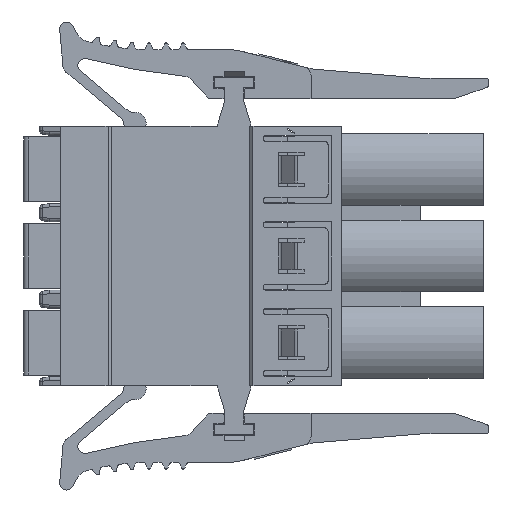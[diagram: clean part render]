
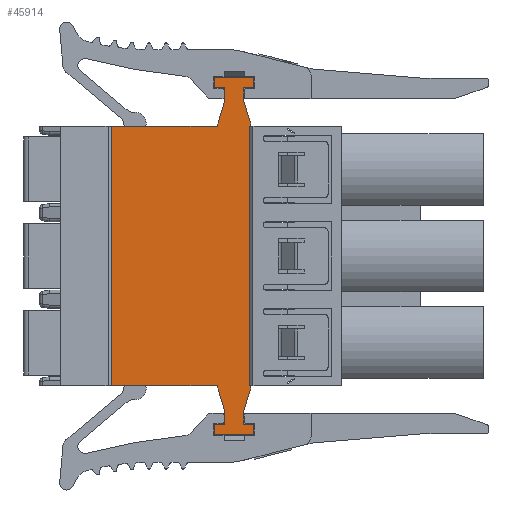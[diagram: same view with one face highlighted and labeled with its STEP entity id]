
A CAD part, left-side view. The second image highlights one B-rep face of the part: STEP entity #45914.
In plain terms, the highlighted planar face has unit normal (-1, 0, 0).
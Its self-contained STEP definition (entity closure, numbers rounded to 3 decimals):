
#10522=DIRECTION('',(0.,0.,-1.));
#10523=VECTOR('',#10522,15.24);
#10524=CARTESIAN_POINT('',(0.2,12.7,2.54));
#10525=LINE('',#10524,#10523);
#10530=DIRECTION('',(0.,1.,0.));
#10531=VECTOR('',#10530,0.1);
#10532=CARTESIAN_POINT('',(0.2,4.5,-12.7));
#10533=LINE('',#10532,#10531);
#10534=DIRECTION('',(0.,-0.287,0.958));
#10535=VECTOR('',#10534,1.566);
#10536=CARTESIAN_POINT('',(0.2,4.95,-14.2));
#10537=LINE('',#10536,#10535);
#10538=DIRECTION('',(0.,0.,-1.));
#10539=VECTOR('',#10538,0.75);
#10540=CARTESIAN_POINT('',(0.2,6.05,-14.2));
#10541=LINE('',#10540,#10539);
#10542=DIRECTION('',(0.,-0.287,-0.958));
#10543=VECTOR('',#10542,1.566);
#10544=CARTESIAN_POINT('',(0.2,6.5,-12.7));
#10545=LINE('',#10544,#10543);
#10546=DIRECTION('',(0.,-1.,0.));
#10547=VECTOR('',#10546,6.2);
#10548=CARTESIAN_POINT('',(0.2,12.7,-12.7));
#10549=LINE('',#10548,#10547);
#10550=DIRECTION('',(0.,1.,0.));
#10551=VECTOR('',#10550,6.2);
#10552=CARTESIAN_POINT('',(0.2,6.5,2.54));
#10553=LINE('',#10552,#10551);
#10554=DIRECTION('',(0.,0.287,-0.958));
#10555=VECTOR('',#10554,1.566);
#10556=CARTESIAN_POINT('',(0.2,6.05,4.04));
#10557=LINE('',#10556,#10555);
#10558=DIRECTION('',(0.,0.287,0.958));
#10559=VECTOR('',#10558,1.566);
#10560=CARTESIAN_POINT('',(0.2,4.5,2.54));
#10561=LINE('',#10560,#10559);
#10562=DIRECTION('',(0.,-1.,0.));
#10563=VECTOR('',#10562,0.1);
#10564=CARTESIAN_POINT('',(0.2,4.6,2.54));
#10565=LINE('',#10564,#10563);
#10566=DIRECTION('',(0.,0.,1.));
#10567=VECTOR('',#10566,15.24);
#10568=CARTESIAN_POINT('',(0.2,4.6,-12.7));
#10569=LINE('',#10568,#10567);
#12244=DIRECTION('',(0.,0.,-1.));
#12245=VECTOR('',#12244,0.75);
#12246=CARTESIAN_POINT('',(0.2,4.95,4.79));
#12247=LINE('',#12246,#12245);
#12256=DIRECTION('',(0.,1.,0.));
#12257=VECTOR('',#12256,0.6);
#12258=CARTESIAN_POINT('',(0.2,4.35,4.79));
#12259=LINE('',#12258,#12257);
#12264=DIRECTION('',(0.,0.,-1.));
#12265=VECTOR('',#12264,0.6);
#12266=CARTESIAN_POINT('',(0.2,4.35,5.39));
#12267=LINE('',#12266,#12265);
#12272=DIRECTION('',(0.,-1.,0.));
#12273=VECTOR('',#12272,2.3);
#12274=CARTESIAN_POINT('',(0.2,6.65,5.39));
#12275=LINE('',#12274,#12273);
#14188=DIRECTION('',(0.,0.,1.));
#14189=VECTOR('',#14188,0.6);
#14190=CARTESIAN_POINT('',(0.2,6.65,4.79));
#14191=LINE('',#14190,#14189);
#14200=DIRECTION('',(0.,1.,0.));
#14201=VECTOR('',#14200,0.6);
#14202=CARTESIAN_POINT('',(0.2,6.05,4.79));
#14203=LINE('',#14202,#14201);
#14208=DIRECTION('',(0.,0.,1.));
#14209=VECTOR('',#14208,0.75);
#14210=CARTESIAN_POINT('',(0.2,6.05,4.04));
#14211=LINE('',#14210,#14209);
#17668=DIRECTION('',(0.,-1.,0.));
#17669=VECTOR('',#17668,0.6);
#17670=CARTESIAN_POINT('',(0.2,6.65,-14.95));
#17671=LINE('',#17670,#17669);
#17676=DIRECTION('',(0.,0.,1.));
#17677=VECTOR('',#17676,0.6);
#17678=CARTESIAN_POINT('',(0.2,6.65,-15.55));
#17679=LINE('',#17678,#17677);
#17680=DIRECTION('',(0.,1.,0.));
#17681=VECTOR('',#17680,2.3);
#17682=CARTESIAN_POINT('',(0.2,4.35,-15.55));
#17683=LINE('',#17682,#17681);
#19288=DIRECTION('',(0.,0.,-1.));
#19289=VECTOR('',#19288,0.6);
#19290=CARTESIAN_POINT('',(0.2,4.35,-14.95));
#19291=LINE('',#19290,#19289);
#19300=DIRECTION('',(0.,-1.,0.));
#19301=VECTOR('',#19300,0.6);
#19302=CARTESIAN_POINT('',(0.2,4.95,-14.95));
#19303=LINE('',#19302,#19301);
#19312=DIRECTION('',(0.,0.,-1.));
#19313=VECTOR('',#19312,0.75);
#19314=CARTESIAN_POINT('',(0.2,4.95,-14.2));
#19315=LINE('',#19314,#19313);
#24604=CARTESIAN_POINT('',(0.2,12.7,2.54));
#24605=VERTEX_POINT('',#24604);
#24607=CARTESIAN_POINT('',(0.2,6.5,2.54));
#24609=VERTEX_POINT('',#24607);
#24632=CARTESIAN_POINT('',(0.2,4.6,2.54));
#24634=VERTEX_POINT('',#24632);
#24636=CARTESIAN_POINT('',(0.2,4.5,2.54));
#24637=VERTEX_POINT('',#24636);
#24646=CARTESIAN_POINT('',(0.2,6.05,4.04));
#24647=VERTEX_POINT('',#24646);
#24666=CARTESIAN_POINT('',(0.2,4.95,4.04));
#24667=VERTEX_POINT('',#24666);
#24668=CARTESIAN_POINT('',(0.2,6.05,4.79));
#24669=VERTEX_POINT('',#24668);
#24670=CARTESIAN_POINT('',(0.2,6.65,4.79));
#24671=VERTEX_POINT('',#24670);
#24672=CARTESIAN_POINT('',(0.2,6.65,5.39));
#24673=VERTEX_POINT('',#24672);
#24674=CARTESIAN_POINT('',(0.2,4.35,5.39));
#24675=VERTEX_POINT('',#24674);
#24676=CARTESIAN_POINT('',(0.2,4.35,4.79));
#24677=VERTEX_POINT('',#24676);
#24678=CARTESIAN_POINT('',(0.2,4.95,4.79));
#24679=VERTEX_POINT('',#24678);
#28709=CARTESIAN_POINT('',(0.2,6.5,-12.7));
#28711=VERTEX_POINT('',#28709);
#28719=CARTESIAN_POINT('',(0.2,4.5,-12.7));
#28720=VERTEX_POINT('',#28719);
#28721=CARTESIAN_POINT('',(0.2,4.6,-12.7));
#28722=VERTEX_POINT('',#28721);
#28745=CARTESIAN_POINT('',(0.2,12.7,-12.7));
#28746=VERTEX_POINT('',#28745);
#28749=CARTESIAN_POINT('',(0.2,6.05,-14.2));
#28750=VERTEX_POINT('',#28749);
#28757=CARTESIAN_POINT('',(0.2,6.05,-14.95));
#28758=VERTEX_POINT('',#28757);
#28759=CARTESIAN_POINT('',(0.2,4.95,-14.2));
#28760=VERTEX_POINT('',#28759);
#28761=CARTESIAN_POINT('',(0.2,4.95,-14.95));
#28762=VERTEX_POINT('',#28761);
#28763=CARTESIAN_POINT('',(0.2,4.35,-14.95));
#28764=VERTEX_POINT('',#28763);
#28765=CARTESIAN_POINT('',(0.2,4.35,-15.55));
#28766=VERTEX_POINT('',#28765);
#28767=CARTESIAN_POINT('',(0.2,6.65,-15.55));
#28768=VERTEX_POINT('',#28767);
#28769=CARTESIAN_POINT('',(0.2,6.65,-14.95));
#28770=VERTEX_POINT('',#28769);
#45862=CARTESIAN_POINT('',(0.2,12.7,-2.54));
#45863=DIRECTION('',(-1.,0.,0.));
#45864=DIRECTION('',(0.,-1.,0.));
#45865=AXIS2_PLACEMENT_3D('',#45862,#45863,#45864);
#45866=PLANE('',#45865);
#45868=ORIENTED_EDGE('',*,*,#45867,.F.);
#45869=ORIENTED_EDGE('',*,*,#34713,.F.);
#45871=ORIENTED_EDGE('',*,*,#45870,.F.);
#45873=ORIENTED_EDGE('',*,*,#45872,.T.);
#45875=ORIENTED_EDGE('',*,*,#45874,.T.);
#45877=ORIENTED_EDGE('',*,*,#45876,.T.);
#45879=ORIENTED_EDGE('',*,*,#45878,.T.);
#45881=ORIENTED_EDGE('',*,*,#45880,.T.);
#45883=ORIENTED_EDGE('',*,*,#45882,.T.);
#45885=ORIENTED_EDGE('',*,*,#45884,.F.);
#45887=ORIENTED_EDGE('',*,*,#45886,.F.);
#45888=ORIENTED_EDGE('',*,*,#34701,.F.);
#45889=ORIENTED_EDGE('',*,*,#45853,.F.);
#45891=ORIENTED_EDGE('',*,*,#45890,.F.);
#45893=ORIENTED_EDGE('',*,*,#45892,.F.);
#45895=ORIENTED_EDGE('',*,*,#45894,.T.);
#45897=ORIENTED_EDGE('',*,*,#45896,.T.);
#45899=ORIENTED_EDGE('',*,*,#45898,.T.);
#45901=ORIENTED_EDGE('',*,*,#45900,.T.);
#45903=ORIENTED_EDGE('',*,*,#45902,.T.);
#45905=ORIENTED_EDGE('',*,*,#45904,.T.);
#45907=ORIENTED_EDGE('',*,*,#45906,.T.);
#45909=ORIENTED_EDGE('',*,*,#45908,.F.);
#45911=ORIENTED_EDGE('',*,*,#45910,.F.);
#45912=EDGE_LOOP('',(#45868,#45869,#45871,#45873,#45875,#45877,#45879,#45881,
#45883,#45885,#45887,#45888,#45889,#45891,#45893,#45895,#45897,#45899,#45901,
#45903,#45905,#45907,#45909,#45911));
#45913=FACE_OUTER_BOUND('',#45912,.F.);
#34701=EDGE_CURVE('',#28746,#28711,#10549,.T.);
#34713=EDGE_CURVE('',#28720,#28722,#10533,.T.);
#45853=EDGE_CURVE('',#24605,#28746,#10525,.T.);
#45867=EDGE_CURVE('',#28722,#24634,#10569,.T.);
#45870=EDGE_CURVE('',#28760,#28720,#10537,.T.);
#45872=EDGE_CURVE('',#28760,#28762,#19315,.T.);
#45874=EDGE_CURVE('',#28762,#28764,#19303,.T.);
#45876=EDGE_CURVE('',#28764,#28766,#19291,.T.);
#45878=EDGE_CURVE('',#28766,#28768,#17683,.T.);
#45880=EDGE_CURVE('',#28768,#28770,#17679,.T.);
#45882=EDGE_CURVE('',#28770,#28758,#17671,.T.);
#45884=EDGE_CURVE('',#28750,#28758,#10541,.T.);
#45886=EDGE_CURVE('',#28711,#28750,#10545,.T.);
#45890=EDGE_CURVE('',#24609,#24605,#10553,.T.);
#45892=EDGE_CURVE('',#24647,#24609,#10557,.T.);
#45894=EDGE_CURVE('',#24647,#24669,#14211,.T.);
#45896=EDGE_CURVE('',#24669,#24671,#14203,.T.);
#45898=EDGE_CURVE('',#24671,#24673,#14191,.T.);
#45900=EDGE_CURVE('',#24673,#24675,#12275,.T.);
#45902=EDGE_CURVE('',#24675,#24677,#12267,.T.);
#45904=EDGE_CURVE('',#24677,#24679,#12259,.T.);
#45906=EDGE_CURVE('',#24679,#24667,#12247,.T.);
#45908=EDGE_CURVE('',#24637,#24667,#10561,.T.);
#45910=EDGE_CURVE('',#24634,#24637,#10565,.T.);
#45914=ADVANCED_FACE('',(#45913),#45866,.T.);
